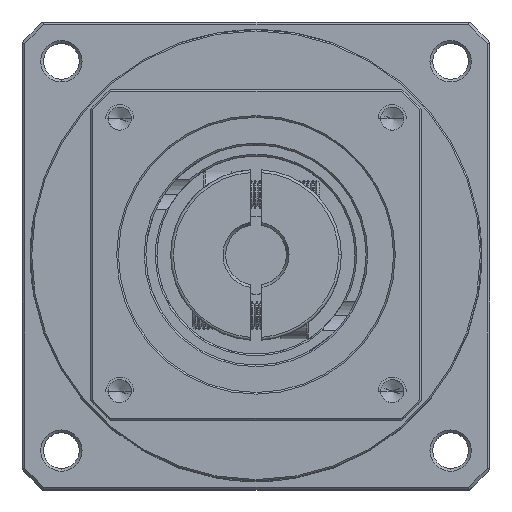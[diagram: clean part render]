
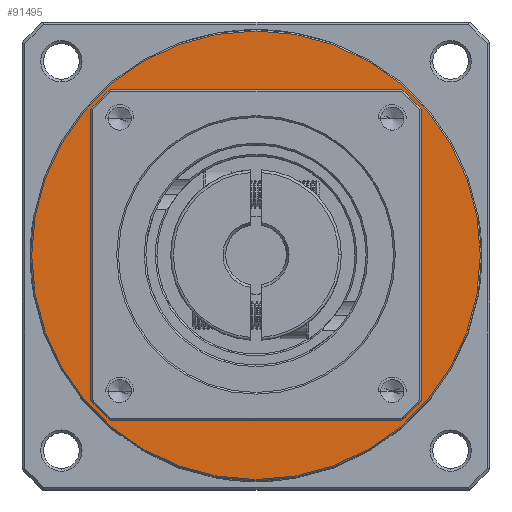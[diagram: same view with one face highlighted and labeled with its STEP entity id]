
A CAD part, top view. The second image highlights one B-rep face of the part: STEP entity #91495.
In plain terms, the highlighted planar face has unit normal (0, 0, 1).
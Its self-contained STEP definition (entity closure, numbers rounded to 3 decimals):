
#711 = DIRECTION ( 'NONE',  ( 0., 0., -1. ) ) ;
#2134 = ORIENTED_EDGE ( 'NONE', *, *, #77052, .T. ) ;
#2507 = CARTESIAN_POINT ( 'NONE',  ( -93.871, 20.584, -29.394 ) ) ;
#6009 = CARTESIAN_POINT ( 'NONE',  ( -23.121, 20.584, -29.394 ) ) ;
#8374 = CIRCLE ( 'NONE', #83949, 40.75 ) ;
#11833 = VERTEX_POINT ( 'NONE', #6009 ) ;
#14263 = FACE_BOUND ( 'NONE', #108450, .T. ) ;
#15245 = CARTESIAN_POINT ( 'NONE',  ( -63.871, 20.584, -29.394 ) ) ;
#24546 = DIRECTION ( 'NONE',  ( -1., 0., 0. ) ) ;
#30890 = EDGE_CURVE ( 'NONE', #11833, #72679, #8374, .T. ) ;
#34765 = CARTESIAN_POINT ( 'NONE',  ( -104.621, 20.584, -29.394 ) ) ;
#34767 = AXIS2_PLACEMENT_3D ( 'NONE', #39450, #104213, #48826 ) ;
#35938 = DIRECTION ( 'NONE',  ( 0., 0., 1. ) ) ;
#39450 = CARTESIAN_POINT ( 'NONE',  ( -63.871, 20.584, -29.394 ) ) ;
#40624 = VERTEX_POINT ( 'NONE', #101964 ) ;
#44677 = ORIENTED_EDGE ( 'NONE', *, *, #30890, .F. ) ;
#48160 = CARTESIAN_POINT ( 'NONE',  ( -63.871, 20.584, -29.394 ) ) ;
#48826 = DIRECTION ( 'NONE',  ( -1., 0., 0. ) ) ;
#54167 = PLANE ( 'NONE',  #71805 ) ;
#56120 = CARTESIAN_POINT ( 'NONE',  ( -63.871, 20.584, -29.394 ) ) ;
#57418 = DIRECTION ( 'NONE',  ( -1., 0., 0. ) ) ;
#62815 = ORIENTED_EDGE ( 'NONE', *, *, #104644, .F. ) ;
#65411 = DIRECTION ( 'NONE',  ( -1., 0., 0. ) ) ;
#71201 = CIRCLE ( 'NONE', #97744, 40.75 ) ;
#71805 = AXIS2_PLACEMENT_3D ( 'NONE', #91412, #35938, #100684 ) ;
#72679 = VERTEX_POINT ( 'NONE', #34765 ) ;
#73870 = VERTEX_POINT ( 'NONE', #2507 ) ;
#77052 = EDGE_CURVE ( 'NONE', #73870, #40624, #116221, .T. ) ;
#79984 = DIRECTION ( 'NONE',  ( 0., 0., -1. ) ) ;
#83949 = AXIS2_PLACEMENT_3D ( 'NONE', #15245, #79984, #24546 ) ;
#91412 = CARTESIAN_POINT ( 'NONE',  ( -63.871, 20.584, -29.394 ) ) ;
#91495 = ADVANCED_FACE ( 'NONE', ( #112706, #14263 ), #54167, .T. ) ;
#96721 = ORIENTED_EDGE ( 'NONE', *, *, #98878, .T. ) ;
#97744 = AXIS2_PLACEMENT_3D ( 'NONE', #56120, #711, #65411 ) ;
#98878 = EDGE_CURVE ( 'NONE', #40624, #73870, #115870, .T. ) ;
#100684 = DIRECTION ( 'NONE',  ( 1., 0., 0. ) ) ;
#101964 = CARTESIAN_POINT ( 'NONE',  ( -33.871, 20.584, -29.394 ) ) ;
#104213 = DIRECTION ( 'NONE',  ( 0., 0., -1. ) ) ;
#104644 = EDGE_CURVE ( 'NONE', #72679, #11833, #71201, .T. ) ;
#107438 = AXIS2_PLACEMENT_3D ( 'NONE', #48160, #112815, #57418 ) ;
#108450 = EDGE_LOOP ( 'NONE', ( #2134, #96721 ) ) ;
#112706 = FACE_OUTER_BOUND ( 'NONE', #115692, .T. ) ;
#112815 = DIRECTION ( 'NONE',  ( 0., 0., -1. ) ) ;
#115692 = EDGE_LOOP ( 'NONE', ( #62815, #44677 ) ) ;
#115870 = CIRCLE ( 'NONE', #34767, 30. ) ;
#116221 = CIRCLE ( 'NONE', #107438, 30. ) ;
